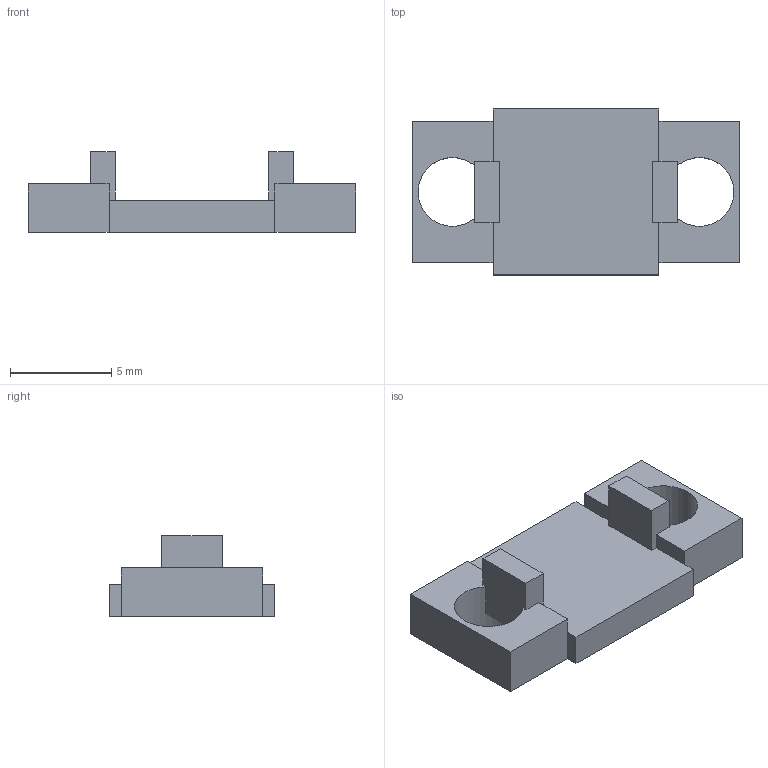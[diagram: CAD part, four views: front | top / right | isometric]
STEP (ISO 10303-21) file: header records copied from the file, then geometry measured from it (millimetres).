
FILE_DESCRIPTION(('FreeCAD Model'),'2;1');
FILE_NAME('Open CASCADE Shape Model','2026-11-20T08:25:39',('FreeCAD'),( 'FreeCAD'),'Open CASCADE STEP processor 7.8','FreeCAD','Unknown');
FILE_SCHEMA(('AUTOMOTIVE_DESIGN { 1 0 10303 214 1 1 1 1 }'));
Length unit declared in the file: millimetre
Products named in the file (1): Open CASCADE STEP translator 7.8 75
Bounding box: 16.2 x 8.2 x 4 mm (x, y, z)
Volume: 214.8 mm3; surface area: 405.7 mm2
Topology: 1 solids, 1 shells, 34 faces, 98 edges, 64 vertices
Faces by surface type: plane 32, cylinder 2
Full cylindrical faces by diameter (mm): 3.4 x2
Entity records: 1116 total; most frequent: CARTESIAN_POINT 197, ORIENTED_EDGE 196, DIRECTION 176, EDGE_CURVE 98, LINE 90, VECTOR 90, VERTEX_POINT 64, AXIS2_PLACEMENT_3D 43
